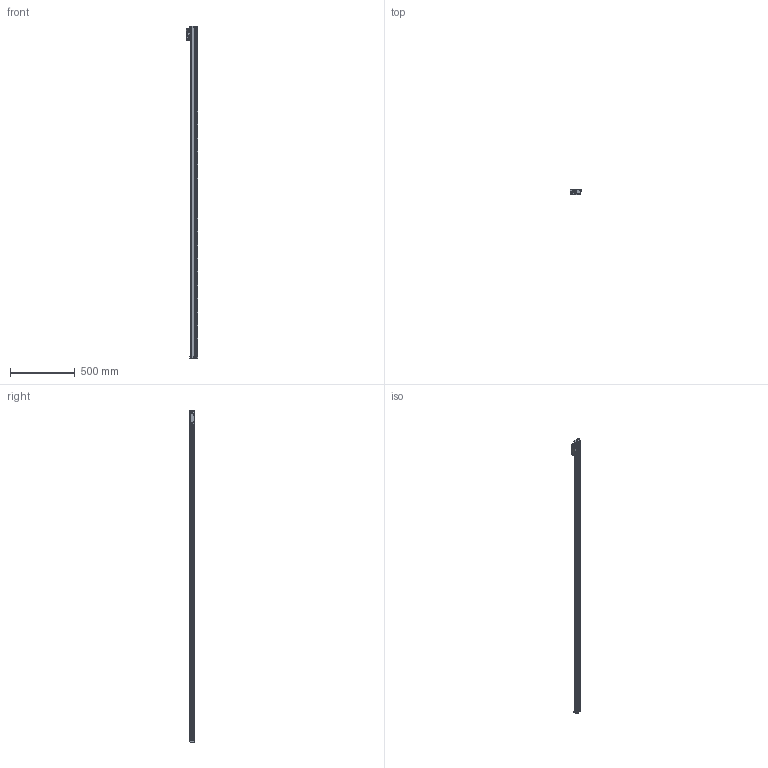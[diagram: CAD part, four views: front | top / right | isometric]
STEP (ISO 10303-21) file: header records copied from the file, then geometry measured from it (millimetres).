
FILE_DESCRIPTION(/* description */ (''),/* implementation_level */ '2;1');
FILE_NAME(/* name */ 'JC21A-2440-1.stp',/* time_stamp */ '2023-12-21T17:19:15+08:00',/* author */ (''),/* organization */ (''),/* preprocessor_version */ 'ST-DEVELOPER v14',/* originating_system */ 'SIEMENS PLM Software NX 8.0',/* authorisation */ '');
FILE_SCHEMA (('CONFIG_CONTROL_DESIGN'));
Length unit declared in the file: millimetre
Products named in the file (1): JC21A-2440-1
Bounding box: 87.5 x 37 x 2561 mm (x, y, z)
Volume: 3989103.7 mm3; surface area: 645437.6 mm2
Topology: 4 solids, 6 shells, 1381 faces, 4142 edges, 2759 vertices
Faces by surface type: plane 866, cylinder 483, cone 22, bspline 8, extrusion 2
Full cylindrical faces by diameter (mm): 2.5 x12, 3.3 x6, 3.7 x4, 4.2 x4, 5 x2, 6 x6, 6.6 x2, 6.8 x28, 7 x2, 13.2 x2
Entity records: 47637 total; most frequent: CARTESIAN_POINT 9695, ORIENTED_EDGE 8016, DIRECTION 7896, EDGE_CURVE 4008, VERTEX_POINT 2715, AXIS2_PLACEMENT_3D 2649, VECTOR 2598, LINE 2596
